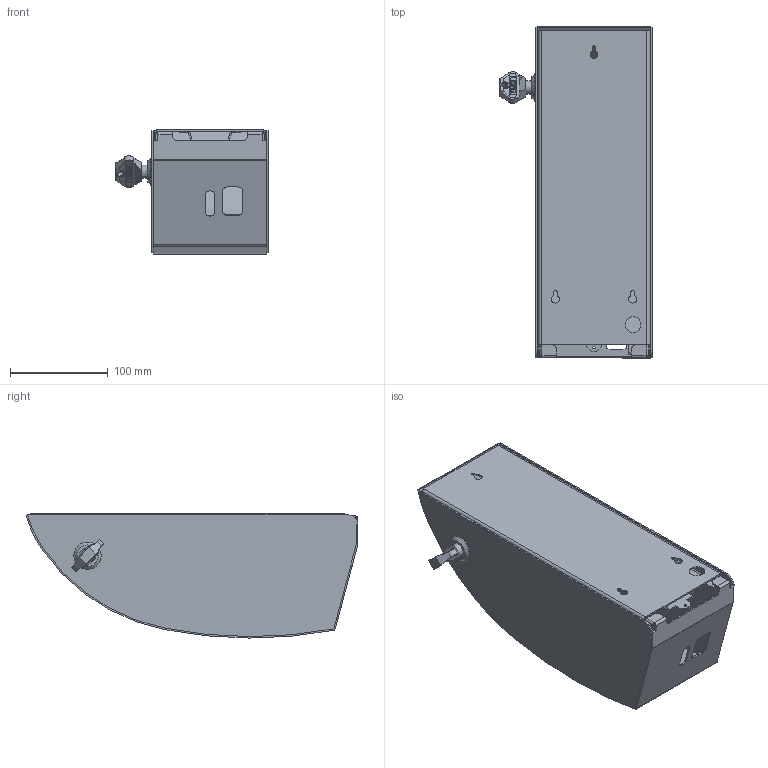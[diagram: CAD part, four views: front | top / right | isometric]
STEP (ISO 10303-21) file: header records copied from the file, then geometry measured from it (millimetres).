
FILE_DESCRIPTION((''),'2;1');
FILE_NAME('X:\Standardvarer\Dispensere til sæbe og duft\295 Dan Dryer Design elektronisk skumsæbedispenser - rustfri stål\Tegninger\Public 3D files\295 DAN DRYER DESIGN touch free soap dispenser FOAM.stp','2014-03-12T14:07:51',('Dan Dryer'),(''),'Autodesk Inventor 2012','Autodesk Inventor 2012','');
FILE_SCHEMA(('AUTOMOTIVE_DESIGN { 1 0 10303 214 1 1 1 1 }'));
Length unit declared in the file: millimetre
Products named in the file (13): SLET; 282-060; 282-061; 282-062; 295-070; 295-072; 295-073; 295-074; 295-078; 28200; 28200-2; 28200-1; 28202
Assembly tree (12 placements, depth 3):
  SLET
    282-060
      282-061
      282-062
    295-070
      295-072
      295-073
      295-074
      295-078
    28200
      28200-2
      28200-1
    28202
Bounding box: 156.3 x 339.33 x 126.9 mm (x, y, z)
Volume: 275927.3 mm3; surface area: 369119.6 mm2
Topology: 9 solids, 10 shells, 546 faces, 1387 edges, 875 vertices
Faces by surface type: plane 391, cylinder 139, bspline 8, cone 7, torus 1
Full cylindrical faces by diameter (mm): 2.5 x1, 3 x4, 6 x1, 10 x1, 13.5 x1, 16 x1, 16.1 x1, 19.8 x1, 20 x1, 22 x1, 28 x1
Entity records: 18537 total; most frequent: CARTESIAN_POINT 5023, ORIENTED_EDGE 2725, DIRECTION 2696, EDGE_CURVE 1364, VECTOR 1028, LINE 1028, VERTEX_POINT 868, AXIS2_PLACEMENT_3D 834
